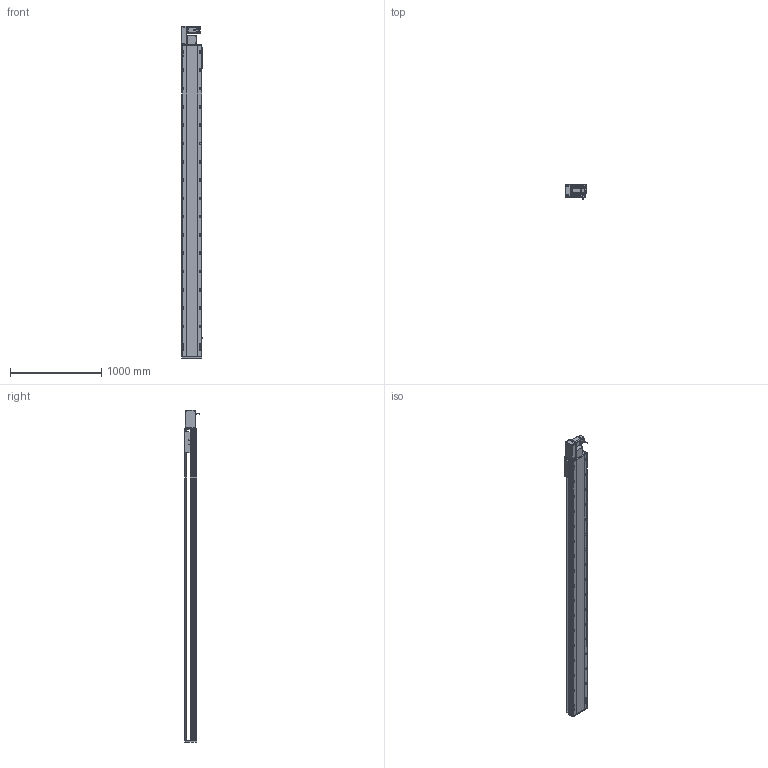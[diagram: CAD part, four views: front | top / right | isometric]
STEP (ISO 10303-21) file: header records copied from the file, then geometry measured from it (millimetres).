
FILE_DESCRIPTION (( 'STEP AP214' ), '1' );
FILE_NAME ('RTB22S-XX-3050-L-M75-C4.STEP', '2025-12-12T03:33:01', ( '' ), ( '' ), 'SwSTEP 2.0', 'SolidWorks 2018', '' );
FILE_SCHEMA (( 'AUTOMOTIVE_DESIGN' ));
Length unit declared in the file: millimetre
Products named in the file (14): RTB22S-GY-018P^RTB22S-L-々湍釱蚾饜_RTB22S-XX-XX-L-M75-C4; 750W萇儂^RTB22S-XX-XX-L-M75-C4; RTB22S-GY-017P^RTB22S-L-々湍釱蚾饜_RTB22S-XX-XX-L-M75-C4; RTB22S-XX-3050-L-M75-C4; RTB22S-GY-014--々湍釱^RTB22S-L-々湍釱蚾饜_RTB22S-XX-XX-L-M75-C4; RTB22S-GY-005P^RTB22S-L-々湍釱蚾饜_RTB22S-XX-XX-L-M75-C4; RTB22S-GY-007奻裔^RTB22S-XX-XX-L-M75-C4; RTB22S-L-004賑釱^RTB22S-XX-XX-L-M75-C4; RTB22S-GY-001耜裔^RTB22S-XX-XX-L-M75-C4; OMRON EE-SX672 传感器^RTB22S-XX-XX-L-M75-C4; RTH22-GY-013外置感应片^RTB22S-XX-XX-L-M75-C4; RTB22S-L-々湍釱蚾饜^RTB22S-XX-XX-L-M75-C4; RTB22S-GY-008-M75--萇儂啣^RTB22S-L-々湍釱蚾饜_RTB22S-XX-XX-L-M75-C4; RTB22S-L-011菁釱^RTB22S-XX-XX-L-M75-C4
Assembly tree (16 placements, depth 3):
  RTB22S-XX-3050-L-M75-C4
    RTB22S-L-011菁釱^RTB22S-XX-XX-L-M75-C4
    750W萇儂^RTB22S-XX-XX-L-M75-C4
    RTB22S-L-004賑釱^RTB22S-XX-XX-L-M75-C4
    OMRON EE-SX672 传感器^RTB22S-XX-XX-L-M75-C4  x3
    RTH22-GY-013外置感应片^RTB22S-XX-XX-L-M75-C4
    RTB22S-GY-007奻裔^RTB22S-XX-XX-L-M75-C4
    RTB22S-GY-001耜裔^RTB22S-XX-XX-L-M75-C4
    RTB22S-L-々湍釱蚾饜^RTB22S-XX-XX-L-M75-C4
      RTB22S-GY-014--々湍釱^RTB22S-L-々湍釱蚾饜_RTB22S-XX-XX-L-M75-C4
      RTB22S-GY-017P^RTB22S-L-々湍釱蚾饜_RTB22S-XX-XX-L-M75-C4  x2
      RTB22S-GY-005P^RTB22S-L-々湍釱蚾饜_RTB22S-XX-XX-L-M75-C4
      RTB22S-GY-008-M75--萇儂啣^RTB22S-L-々湍釱蚾饜_RTB22S-XX-XX-L-M75-C4
      RTB22S-GY-018P^RTB22S-L-々湍釱蚾饜_RTB22S-XX-XX-L-M75-C4
Bounding box: 238.5 x 162.7 x 3629 mm (x, y, z)
Volume: 45167485.1 mm3; surface area: 4605860.8 mm2
Topology: 15 solids, 15 shells, 2163 faces, 5886 edges, 3752 vertices
Faces by surface type: plane 935, cylinder 742, bspline 296, cone 178, sphere 8, torus 4
Entity records: 59348 total; most frequent: CARTESIAN_POINT 16652, ORIENTED_EDGE 8480, DIRECTION 8334, EDGE_CURVE 4240, AXIS2_PLACEMENT_3D 3006, VERTEX_POINT 2756, LINE 2322, VECTOR 2322
